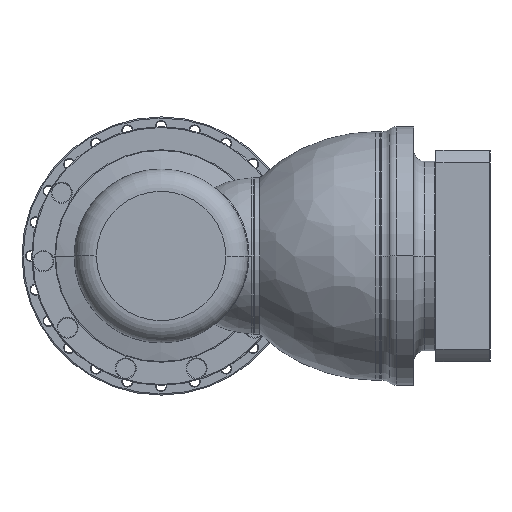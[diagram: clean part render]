
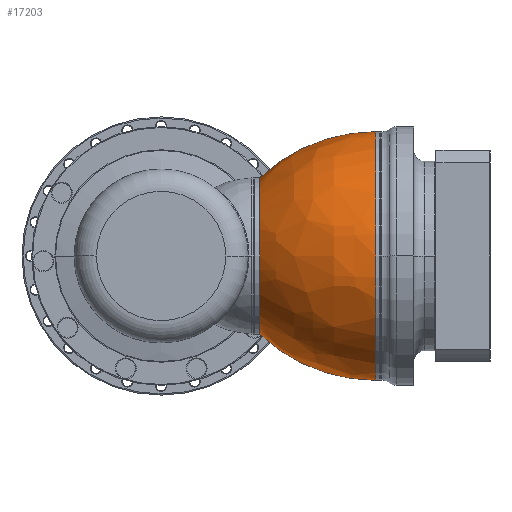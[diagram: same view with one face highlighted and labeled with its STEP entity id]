
A CAD part, left-side view. The second image highlights one B-rep face of the part: STEP entity #17203.
In plain terms, the highlighted free-form (B-spline) face has degree [3, 3] with [7, 4] control points.
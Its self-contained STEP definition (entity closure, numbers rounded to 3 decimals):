
#16909=CARTESIAN_POINT('',(-4.,0.,0.));
#16910=DIRECTION('',(1.,0.,0.));
#16911=DIRECTION('',(0.,-1.,0.));
#16912=AXIS2_PLACEMENT_3D('',#16909,#16910,#16911);
#16933=CARTESIAN_POINT('',(-4.,-39.563,0.));
#16934=DIRECTION('',(0.,0.,-1.));
#16935=DIRECTION('',(-0.687,0.726,0.));
#16936=AXIS2_PLACEMENT_3D('',#16933,#16934,#16935);
#16938=CARTESIAN_POINT('',(-4.,39.563,0.));
#16939=DIRECTION('',(0.,0.,1.));
#16940=DIRECTION('',(-0.687,-0.726,0.));
#16941=AXIS2_PLACEMENT_3D('',#16938,#16939,#16940);
#16953=CARTESIAN_POINT('',(-107.856,0.,0.));
#16954=DIRECTION('',(-1.,0.,0.));
#16955=DIRECTION('',(0.,1.,0.));
#16956=AXIS2_PLACEMENT_3D('',#16953,#16954,#16955);
#17004=CARTESIAN_POINT('',(-4.,111.5,0.));
#17005=CARTESIAN_POINT('',(-4.,-111.5,0.));
#17006=VERTEX_POINT('',#17004);
#17007=VERTEX_POINT('',#17005);
#17008=CARTESIAN_POINT('',(-107.856,70.137,0.));
#17009=CARTESIAN_POINT('',(-107.856,-70.137,0.));
#17010=VERTEX_POINT('',#17008);
#17011=VERTEX_POINT('',#17009);
#17168=CARTESIAN_POINT('',(-1.71,111.263,
7.));
#17169=CARTESIAN_POINT('',(-42.466,111.879,
7.039));
#17170=CARTESIAN_POINT('',(-80.335,96.827,
6.092));
#17171=CARTESIAN_POINT('',(-109.507,68.415,
4.304));
#17172=CARTESIAN_POINT('',(-1.71,115.57,
-61.471));
#17173=CARTESIAN_POINT('',(-42.466,116.211,
-61.812));
#17174=CARTESIAN_POINT('',(-80.335,100.576,
-53.495));
#17175=CARTESIAN_POINT('',(-109.507,71.063,
-37.798));
#17176=CARTESIAN_POINT('',(-1.71,68.606,
-111.483));
#17177=CARTESIAN_POINT('',(-42.466,68.987,
-112.101));
#17178=CARTESIAN_POINT('',(-80.335,59.705,
-97.019));
#17179=CARTESIAN_POINT('',(-109.507,42.185,
-68.55));
#17180=CARTESIAN_POINT('',(-1.71,0.,
-111.483));
#17181=CARTESIAN_POINT('',(-42.466,0.,
-112.101));
#17182=CARTESIAN_POINT('',(-80.335,0.,-97.019));
#17183=CARTESIAN_POINT('',(-109.507,0.,-68.55));
#17184=CARTESIAN_POINT('',(-1.71,-68.606,
-111.483));
#17185=CARTESIAN_POINT('',(-42.466,-68.987,
-112.101));
#17186=CARTESIAN_POINT('',(-80.335,-59.705,
-97.019));
#17187=CARTESIAN_POINT('',(-109.507,-42.185,
-68.55));
#17188=CARTESIAN_POINT('',(-1.71,-115.57,
-61.471));
#17189=CARTESIAN_POINT('',(-42.466,-116.211,
-61.812));
#17190=CARTESIAN_POINT('',(-80.335,-100.576,
-53.495));
#17191=CARTESIAN_POINT('',(-109.507,-71.063,
-37.798));
#17192=CARTESIAN_POINT('',(-1.71,-111.263,
7.));
#17193=CARTESIAN_POINT('',(-42.466,-111.879,
7.039));
#17194=CARTESIAN_POINT('',(-80.335,-96.827,
6.092));
#17195=CARTESIAN_POINT('',(-109.507,-68.415,
4.304));
#17196=(BOUNDED_SURFACE()B_SPLINE_SURFACE(3,3,((#17168,#17169,#17170,#17171),(
#17172,#17173,#17174,#17175),(#17176,#17177,#17178,#17179),(#17180,#17181,
#17182,#17183),(#17184,#17185,#17186,#17187),(#17188,#17189,#17190,#17191),(
#17192,#17193,#17194,#17195)),.UNSPECIFIED.,.F.,.F.,.F.)B_SPLINE_SURFACE_WITH_KNOTS((4,3,4),(4,4),(0.,1.,2.),(0.,1.),.UNSPECIFIED.)GEOMETRIC_REPRESENTATION_ITEM()RATIONAL_B_SPLINE_SURFACE(((1.235,1.171,
1.171,1.235),(0.975,0.925,
0.925,0.975),(0.975,0.925,
0.925,0.975),(1.235,1.171,
1.171,1.235),(0.975,0.925,
0.925,0.975),(0.975,0.925,
0.925,0.975),(1.235,1.171,
1.171,1.235)))REPRESENTATION_ITEM('')SURFACE());
#17197=ORIENTED_EDGE('',*,*,#17159,.T.);
#17198=ORIENTED_EDGE('',*,*,#17134,.T.);
#17199=ORIENTED_EDGE('',*,*,#17080,.T.);
#17200=ORIENTED_EDGE('',*,*,#17131,.F.);
#17201=EDGE_LOOP('',(#17197,#17198,#17199,#17200));
#17202=FACE_OUTER_BOUND('',#17201,.F.);
#17203=ADVANCED_FACE('',(#17202),#17196,.T.);
#16913=CIRCLE('',#16912,111.5);
#16937=CIRCLE('',#16936,151.063);
#16942=CIRCLE('',#16941,151.063);
#16957=CIRCLE('',#16956,70.137);
#17080=EDGE_CURVE('',#17007,#17006,#16913,.T.);
#17131=EDGE_CURVE('',#17010,#17006,#16937,.T.);
#17134=EDGE_CURVE('',#17011,#17007,#16942,.T.);
#17159=EDGE_CURVE('',#17010,#17011,#16957,.T.);
